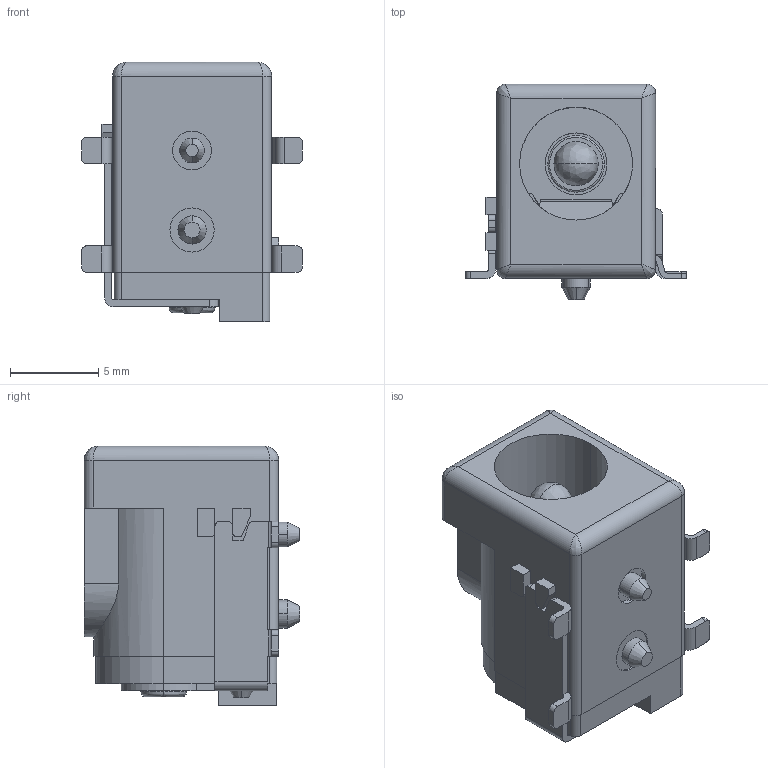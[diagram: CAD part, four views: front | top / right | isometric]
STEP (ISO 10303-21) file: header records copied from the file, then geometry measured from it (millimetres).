
FILE_DESCRIPTION(('STEP AP242'),'1');
FILE_NAME('dcj250-05-a-k1-a.stp','2023-05-03T12:32:35',('TraceParts'),('TraceParts S.A.'),'Spatial InterOp 3D',' ',' ');
FILE_SCHEMA(('AP242_MANAGED_MODEL_BASED_3D_ENGINEERING_MIM_LF {1 0 10303 442 1 1 4}'));
Length unit declared in the file: millimetre
Products named in the file (1): dcj250-05-a-k1-a_1
Bounding box: 12.5 x 12.2 x 14.7 mm (x, y, z)
Volume: 816 mm3; surface area: 1727.4 mm2
Topology: 8 solids, 8 shells, 314 faces, 790 edges, 500 vertices
Faces by surface type: plane 180, cylinder 96, bspline 28, cone 10
Entity records: 11153 total; most frequent: CARTESIAN_POINT 3621, ORIENTED_EDGE 1564, DIRECTION 1507, EDGE_CURVE 782, LINE 537, VECTOR 537, VERTEX_POINT 500, AXIS2_PLACEMENT_3D 485
